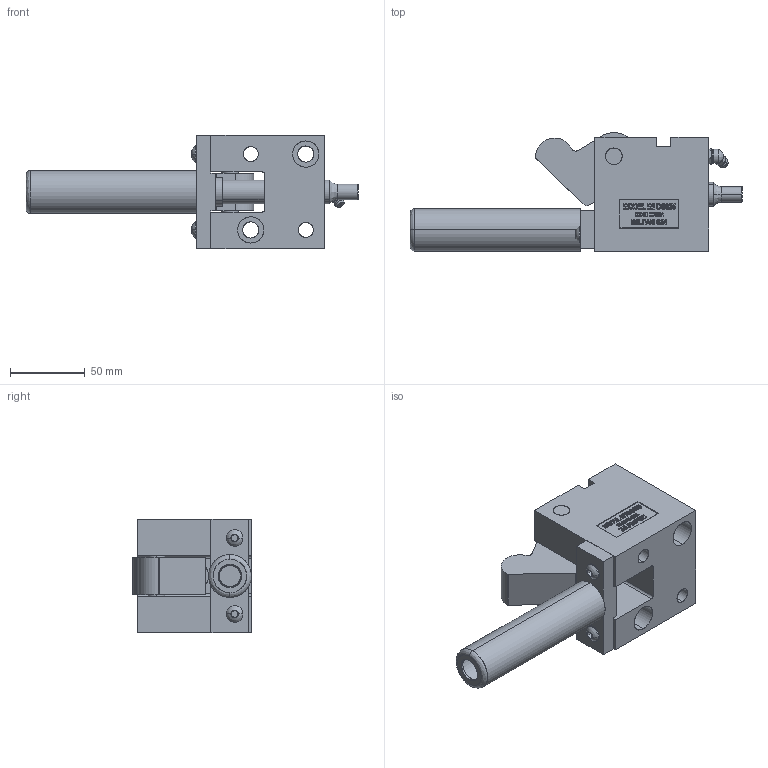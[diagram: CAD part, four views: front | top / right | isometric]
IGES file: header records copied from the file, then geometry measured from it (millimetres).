
Start section: SolidWorks IGES file using analytic representation for surfaces
Global section: file name: Y:\METRIC With OFFSETRIGGER\TOPMOUNT\MTOS62545\OPEN\MTOS62545-O.IGS; native system: SolidWorks 2006 by SolidWorks Corporation; preprocessor: SolidWorks 2006 by SolidWorks Corporation; author: Jim; date: 090121.152106; units: inch
Bounding box: 222.12 x 79.37 x 76.2 mm (x, y, z)
Surface area: 98863.1 mm2 (no closed solid volume)
Topology: 0 solids, 0 shells, 603 faces, 7215 edges, 7211 vertices
Faces by surface type: bspline 489, revolution 114
